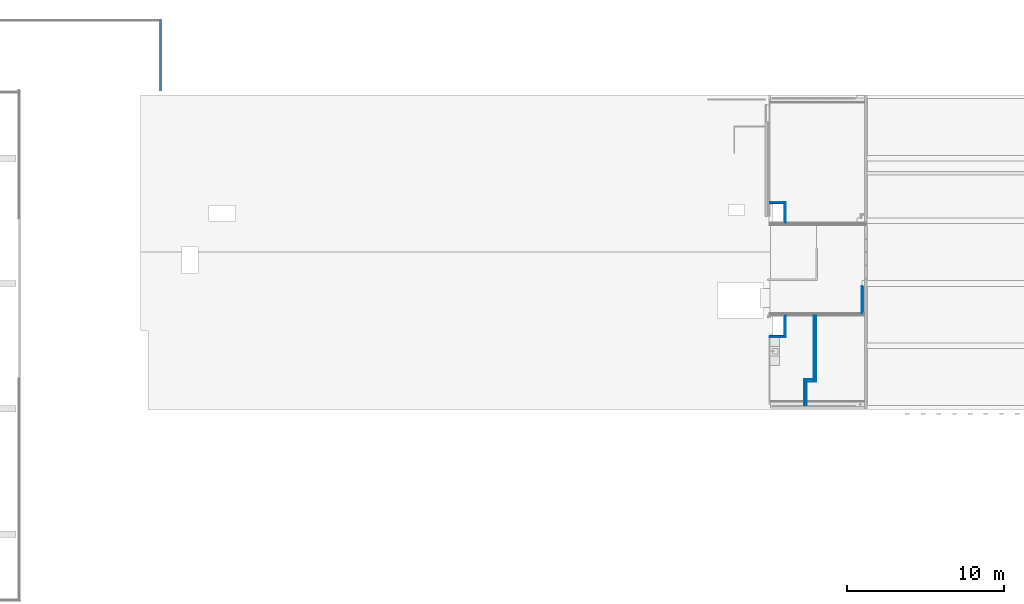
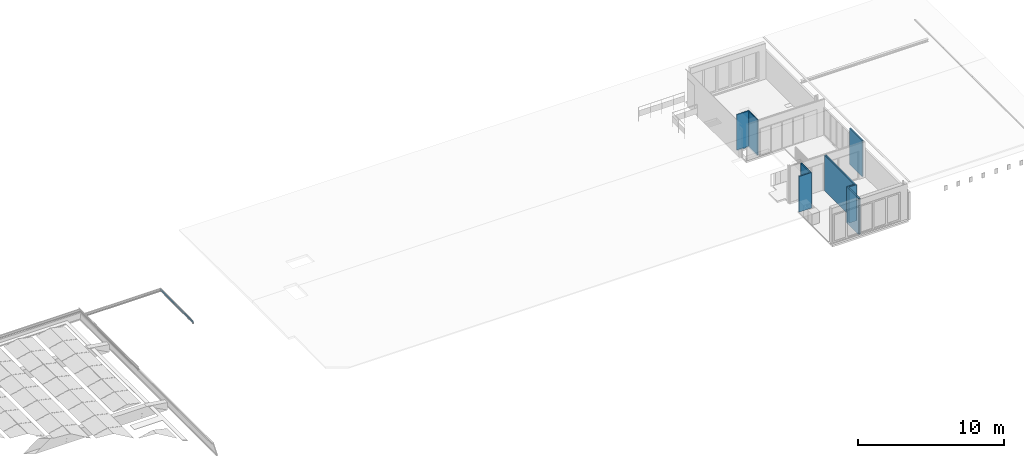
# One storey, part 14 of 25: 35 building element parts, 9 elements without a shape of their own.
"""IFC2X3 building model written with IfcOpenShell, lengths in millimetres."""

from ifc_helpers import new_model, entity, si_unit, converted_unit, derived_unit, money_unit, direction, frame, origin_with_axes, place, context, subcontext, project, spatial, faceted_brep, material, type_object, element, aggregate, save


model = new_model("IFC2X3")

# Units and contexts
model_context = context("Model", 3, precision=0.01, world=origin_with_axes(), true_north=direction((0.0, 1.0)))
body_context = subcontext(model_context, "Body", "Model", "MODEL_VIEW")
ifc_project = project(units=[si_unit("LENGTHUNIT", "METRE", prefix="MILLI"), si_unit("AREAUNIT", "SQUARE_METRE"), si_unit("VOLUMEUNIT", "CUBIC_METRE"), converted_unit("PLANEANGLEUNIT", "DEGREE", entity("IfcPlaneAngleMeasure", 0.0174532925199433), si_unit("PLANEANGLEUNIT", "RADIAN"), dimensions=[0, 0, 0, 0, 0, 0, 0]), money_unit("EUR"), converted_unit("TIMEUNIT", "Year", entity("IfcTimeMeasure", 31557600.0), si_unit("TIMEUNIT", "SECOND"), dimensions=[0, 0, 1, 0, 0, 0, 0]), si_unit("MASSUNIT", "GRAM", prefix="KILO"), si_unit("THERMODYNAMICTEMPERATUREUNIT", "DEGREE_CELSIUS"), si_unit("LUMINOUSINTENSITYUNIT", "LUMEN"), si_unit("ENERGYUNIT", "JOULE", prefix="MEGA"), derived_unit("THERMALCONDUCTANCEUNIT", [(si_unit("POWERUNIT", "WATT"), 1), (si_unit("LENGTHUNIT", "METRE"), -1), (si_unit("THERMODYNAMICTEMPERATUREUNIT", "KELVIN"), -1)]), derived_unit("SPECIFICHEATCAPACITYUNIT", [(si_unit("ENERGYUNIT", "JOULE"), 1), (si_unit("MASSUNIT", "GRAM", prefix="KILO"), -1), (si_unit("THERMODYNAMICTEMPERATUREUNIT", "KELVIN"), -1)]), derived_unit("MASSDENSITYUNIT", [(si_unit("MASSUNIT", "GRAM", prefix="KILO"), 1), (si_unit("VOLUMEUNIT", "CUBIC_METRE"), -1)])], contexts=[model_context])

# Site, building, storey
site_placement = place(None, origin_with_axes())
site = spatial("IfcSite", under=ifc_project, at=site_placement, Name="<site naam>", CompositionType="ELEMENT")
building_placement = place(site_placement, origin_with_axes())
building = spatial("IfcBuilding", under=site, at=building_placement, Name="<Naam gebouw>", CompositionType="ELEMENT")
storey_placement = place(building_placement, frame((0.0, 0.0, 9563.0), z_axis=(0.0, 0.0, 1.0), x_axis=(1.0, 0.0, 0.0)))
storey = spatial("IfcBuildingStorey", under=building, at=storey_placement, Name="03 3e tussenverdieping", CompositionType="ELEMENT", Elevation=9563.0)

# Wall, building element parts
wall_type_1 = type_object("IfcWallType", Name="MS-01 GF 150 ECO DGS/2.100.2.A 150", PredefinedType="NOTDEFINED")
wall_1_placement = place(storey_placement, frame((55000.00000000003, 5935.000000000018, 0.0), z_axis=(0.0, 0.0, 1.0), x_axis=(0.0, -1.0, 0.0)))
wall_1 = element("IfcWall", 1, at=wall_1_placement, inside=storey, type_object=wall_type_1, Name="22_Binnenwand_MS-01")
ifc_material_1 = material(Name="gipsplaat")
building_element_part_1_placement = place(wall_1_placement, origin_with_axes())
building_element_part_1 = element("IfcBuildingElementPart", 2, at=building_element_part_1_placement, material=ifc_material_1, Name="gipsplaat", context=body_context, shape_type="Brep", body=[
    faceted_brep([(0.0, 62.5, 2987.000014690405), (0.0, 75.00000000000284, 2987.000014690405), (0.0, 75.00000000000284, 0.0), (0.0, 62.5, 0.0), (4205.000000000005, 75.00000000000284, 2987.000014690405), (4205.000000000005, 62.5, 2987.000014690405), (4205.000000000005, 75.00000000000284, 0.0), (4205.000000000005, 62.5, 0.0)], [[[0, 1, 2, 3]], [[4, 1, 0, 5]], [[1, 4, 6, 2]], [[6, 7, 3, 2]], [[5, 0, 3, 7]], [[4, 5, 7, 6]]]),
])
building_element_part_2_placement = place(wall_1_placement, origin_with_axes())
building_element_part_2 = element("IfcBuildingElementPart", 3, at=building_element_part_2_placement, material=ifc_material_1, Name="gipsplaat", context=body_context, shape_type="Brep", body=[
    faceted_brep([(0.0, 49.99999999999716, 2987.000014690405), (0.0, 62.5, 2987.000014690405), (0.0, 62.5, 0.0), (0.0, 49.99999999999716, 0.0), (4192.500000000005, 62.5, 2987.000014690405), (4192.500000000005, 49.99999999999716, 2987.000014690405), (4192.500000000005, 62.5, 0.0), (4192.500000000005, 49.99999999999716, 0.0)], [[[0, 1, 2, 3]], [[4, 1, 0, 5]], [[1, 4, 6, 2]], [[6, 7, 3, 2]], [[5, 0, 3, 7]], [[4, 5, 7, 6]]]),
])
ifc_material_2 = material(Name="isolatie_steenwol LSW")
building_element_part_3_placement = place(wall_1_placement, origin_with_axes())
building_element_part_3 = element("IfcBuildingElementPart", 4, at=building_element_part_3_placement, material=ifc_material_2, Name="isolatie_steenwol LSW", context=body_context, shape_type="Brep", body=[
    faceted_brep([(0.0, -49.99999999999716, 2987.000014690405), (0.0, 49.99999999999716, 2987.000014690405), (0.0, 49.99999999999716, 0.0), (0.0, -49.99999999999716, 0.0), (4180.000000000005, 49.99999999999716, 2987.000014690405), (4180.000000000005, -49.99999999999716, 2987.000014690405), (4180.000000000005, 49.99999999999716, 0.0), (4180.000000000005, -49.99999999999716, 0.0)], [[[0, 1, 2, 3]], [[4, 1, 0, 5]], [[1, 4, 6, 2]], [[6, 7, 3, 2]], [[5, 0, 3, 7]], [[4, 5, 7, 6]]]),
])
building_element_part_4_placement = place(wall_1_placement, origin_with_axes())
building_element_part_4 = element("IfcBuildingElementPart", 5, at=building_element_part_4_placement, material=ifc_material_1, Name="gipsplaat", context=body_context, shape_type="Brep", body=[
    faceted_brep([(0.0, -62.5, 2987.000014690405), (0.0, -49.99999999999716, 2987.000014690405), (0.0, -49.99999999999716, 0.0), (0.0, -62.5, 0.0), (4080.000000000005, -49.99999999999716, 2987.000014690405), (4080.000000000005, -62.5, 2987.000014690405), (4080.000000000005, -49.99999999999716, 0.0), (4080.000000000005, -62.5, 0.0)], [[[0, 1, 2, 3]], [[4, 1, 0, 5]], [[1, 4, 6, 2]], [[6, 7, 3, 2]], [[5, 0, 3, 7]], [[4, 5, 7, 6]]]),
])
building_element_part_5_placement = place(wall_1_placement, origin_with_axes())
building_element_part_5 = element("IfcBuildingElementPart", 6, at=building_element_part_5_placement, material=ifc_material_1, Name="gipsplaat", context=body_context, shape_type="Brep", body=[
    faceted_brep([(0.0, -75.00000000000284, 2987.000014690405), (0.0, -62.5, 2987.000014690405), (0.0, -62.5, 0.0), (0.0, -75.00000000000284, 0.0), (4067.500000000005, -62.5, 2987.000014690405), (4067.500000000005, -75.00000000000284, 2987.000014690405), (4067.500000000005, -62.5, 0.0), (4067.500000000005, -75.00000000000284, 0.0)], [[[0, 1, 2, 3]], [[4, 1, 0, 5]], [[1, 4, 6, 2]], [[6, 7, 3, 2]], [[5, 0, 3, 7]], [[4, 5, 7, 6]]]),
])
aggregate(wall_1, [building_element_part_1, building_element_part_2, building_element_part_3, building_element_part_4, building_element_part_5])

wall_type_2 = type_object("IfcWallType", Name="MS-04 GF 138 V/100.3.A 113", PredefinedType="NOTDEFINED")
wall_2_placement = place(storey_placement, frame((52135.00000000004, 4685.000000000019, 0.0), z_axis=(0.0, 0.0, 1.0), x_axis=(1.0, 0.0, 0.0)))
wall_2 = element("IfcWall", 7, at=wall_2_placement, inside=storey, type_object=wall_type_2, Name="22_Binnenwand_MS-04")
building_element_part_6_placement = place(wall_2_placement, origin_with_axes())
building_element_part_6 = element("IfcBuildingElementPart", 8, at=building_element_part_6_placement, material=ifc_material_2, Name="isolatie_steenwol LSW", context=body_context, shape_type="Brep", body=[
    faceted_brep([(0.0, 0.0, 2987.000014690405), (964.9999999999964, 0.0, 2987.000014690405), (964.9999999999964, 0.0, 0.0), (0.0, 0.0, 0.0), (964.9999999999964, -75.00000000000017, 2987.000014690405), (0.0, -75.00000000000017, 2987.000014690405), (964.9999999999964, -75.00000000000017, 0.0), (0.0, -75.00000000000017, 0.0)], [[[0, 1, 2, 3]], [[4, 1, 0, 5]], [[1, 4, 6, 2]], [[3, 2, 6, 7]], [[5, 0, 3, 7]], [[4, 5, 7, 6]]]),
])
building_element_part_7_placement = place(wall_2_placement, origin_with_axes())
building_element_part_7 = element("IfcBuildingElementPart", 9, at=building_element_part_7_placement, material=ifc_material_1, Name="gipsplaat", context=body_context, shape_type="Brep", body=[
    faceted_brep([(0.0, -75.00000000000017, 2987.000014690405), (977.499999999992, -75.00000000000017, 2987.000014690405), (977.499999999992, -75.00000000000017, 0.0), (0.0, -75.00000000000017, 0.0), (977.499999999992, -87.49999999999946, 2987.000014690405), (0.0, -87.49999999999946, 2987.000014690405), (977.499999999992, -87.50000000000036, 0.0), (0.0, -87.50000000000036, 0.0)], [[[0, 1, 2, 3]], [[4, 1, 0, 5]], [[1, 4, 6, 2]], [[3, 2, 6, 7]], [[5, 0, 3, 7]], [[4, 5, 7, 6]]]),
])
building_element_part_8_placement = place(wall_2_placement, origin_with_axes())
building_element_part_8 = element("IfcBuildingElementPart", 10, at=building_element_part_8_placement, material=ifc_material_1, Name="gipsplaat", context=body_context, shape_type="Brep", body=[
    faceted_brep([(0.0, -87.49999999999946, 2987.000014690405), (989.9999999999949, -87.49999999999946, 2987.000014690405), (989.9999999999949, -87.50000000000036, 0.0), (0.0, -87.50000000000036, 0.0), (989.9999999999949, -99.99999999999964, 2987.000014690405), (0.0, -99.99999999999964, 2987.000014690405), (989.9999999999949, -99.99999999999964, 0.0), (0.0, -99.99999999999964, 0.0)], [[[0, 1, 2, 3]], [[4, 1, 0, 5]], [[1, 4, 6, 2]], [[3, 2, 6, 7]], [[5, 0, 3, 7]], [[4, 5, 7, 6]]]),
])
building_element_part_9_placement = place(wall_2_placement, origin_with_axes())
building_element_part_9 = element("IfcBuildingElementPart", 11, at=building_element_part_9_placement, material=ifc_material_1, Name="gipsplaat", context=body_context, shape_type="Brep", body=[
    faceted_brep([(0.0, -99.99999999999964, 2987.000014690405), (1002.499999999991, -99.99999999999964, 2987.000014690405), (1002.499999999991, -99.99999999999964, 0.0), (0.0, -99.99999999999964, 0.0), (1002.499999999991, -112.4999999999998, 2987.000014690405), (0.0, -112.4999999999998, 2987.000014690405), (1002.499999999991, -112.4999999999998, 2640.000000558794), (1002.499999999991, -110.0000179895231, 2640.000000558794), (1002.499999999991, -110.0000179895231, 2600.0), (1002.499999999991, -112.4999999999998, 2600.0), (1002.499999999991, -112.4999999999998, 0.0), (0.0, -112.4999999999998, 0.0), (2.32851086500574, -112.4999999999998, 2599.999999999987), (2.32851086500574, -112.4999999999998, 2640.000000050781), (2.299332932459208, -110.0000179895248, 2640.0), (2.299332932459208, -110.0000179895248, 2600.000000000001)], [[[0, 1, 2, 3]], [[4, 1, 0, 5]], [[1, 4, 6, 7, 8, 9, 10, 2]], [[3, 2, 10, 11]], [[5, 0, 3, 11]], [[4, 5, 11, 10, 9, 12, 13, 6]], [[14, 7, 6, 13]], [[15, 8, 7, 14]], [[12, 9, 8, 15]], [[14, 13, 12, 15]]]),
])
aggregate(wall_2, [building_element_part_6, building_element_part_7, building_element_part_8, building_element_part_9])

wall_3_placement = place(storey_placement, frame((53025.00000000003, 4685.000000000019, 0.0), z_axis=(0.0, 0.0, 1.0), x_axis=(0.0, 1.0, 0.0)))
wall_3 = element("IfcWall", 12, at=wall_3_placement, inside=storey, type_object=wall_type_2, Name="22_Binnenwand_MS-04")
building_element_part_10_placement = place(wall_3_placement, origin_with_axes())
building_element_part_10 = element("IfcBuildingElementPart", 13, at=building_element_part_10_placement, material=ifc_material_2, Name="isolatie_steenwol LSW", context=body_context, shape_type="Brep", body=[
    faceted_brep([(1249.999999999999, 0.0, 2987.000014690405), (1249.999999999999, -75.00000000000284, 2987.000014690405), (1249.999999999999, -75.00000000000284, 0.0), (1249.999999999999, 0.0, 0.0), (0.0, -75.00000000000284, 2987.000014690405), (0.0, 0.0, 2987.000014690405), (0.0, -75.00000000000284, 0.0), (0.0, 0.0, 0.0)], [[[0, 1, 2, 3]], [[4, 1, 0, 5]], [[1, 4, 6, 2]], [[6, 7, 3, 2]], [[5, 0, 3, 7]], [[4, 5, 7, 6]]]),
])
building_element_part_11_placement = place(wall_3_placement, origin_with_axes())
building_element_part_11 = element("IfcBuildingElementPart", 14, at=building_element_part_11_placement, material=ifc_material_1, Name="gipsplaat", context=body_context, shape_type="Brep", body=[
    faceted_brep([(1249.999999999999, -87.49999999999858, 2987.000014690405), (1249.999999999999, -100.0000000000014, 2987.000014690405), (1249.999999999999, -100.0000000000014, 0.0), (1249.999999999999, -87.49999999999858, 0.0), (-87.50000000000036, -100.0000000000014, 2987.000014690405), (-87.50000000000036, -87.49999999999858, 2987.000014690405), (-87.50000000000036, -100.0000000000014, 0.0), (-87.50000000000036, -87.49999999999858, 0.0)], [[[0, 1, 2, 3]], [[4, 1, 0, 5]], [[1, 4, 6, 2]], [[6, 7, 3, 2]], [[5, 0, 3, 7]], [[4, 5, 7, 6]]]),
])
building_element_part_12_placement = place(wall_3_placement, origin_with_axes())
building_element_part_12 = element("IfcBuildingElementPart", 15, at=building_element_part_12_placement, material=ifc_material_1, Name="gipsplaat", context=body_context, shape_type="Brep", body=[
    faceted_brep([(1249.999999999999, -100.0000000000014, 2987.000014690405), (1249.999999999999, -112.4999999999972, 2987.000014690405), (1249.999999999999, -112.4999999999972, 0.0), (1249.999999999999, -100.0000000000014, 0.0), (-99.99999999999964, -112.4999999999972, 2987.000014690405), (-99.99999999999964, -100.0000000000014, 2987.000014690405), (-99.99999999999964, -112.4999999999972, 0.0), (-99.99999999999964, -100.0000000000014, 0.0)], [[[0, 1, 2, 3]], [[4, 1, 0, 5]], [[1, 4, 6, 2]], [[6, 7, 3, 2]], [[5, 0, 3, 7]], [[4, 5, 7, 6]]]),
])
building_element_part_13_placement = place(wall_3_placement, origin_with_axes())
building_element_part_13 = element("IfcBuildingElementPart", 16, at=building_element_part_13_placement, material=ifc_material_1, Name="gipsplaat", context=body_context, shape_type="Brep", body=[
    faceted_brep([(1249.999999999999, -75.00000000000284, 2987.000014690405), (1249.999999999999, -87.49999999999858, 2987.000014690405), (1249.999999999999, -87.49999999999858, 0.0), (1249.999999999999, -75.00000000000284, 0.0), (-75.00000000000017, -87.49999999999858, 2987.000014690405), (-75.00000000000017, -75.00000000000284, 2987.000014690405), (-75.00000000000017, -87.49999999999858, 0.0), (-75.00000000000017, -75.00000000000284, 0.0)], [[[0, 1, 2, 3]], [[4, 1, 0, 5]], [[1, 4, 6, 2]], [[6, 7, 3, 2]], [[5, 0, 3, 7]], [[4, 5, 7, 6]]]),
])
aggregate(wall_3, [building_element_part_10, building_element_part_11, building_element_part_12, building_element_part_13])

wall_4_placement = place(storey_placement, frame((52135.00000000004, 13075.00000000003, -29.99999999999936), z_axis=(0.0, 0.0, 1.0), x_axis=(1.0, 0.0, 0.0)))
wall_4 = element("IfcWall", 17, at=wall_4_placement, inside=storey, type_object=wall_type_2, Name="22_Binnenwand_MS-04")
building_element_part_14_placement = place(wall_4_placement, origin_with_axes())
building_element_part_14 = element("IfcBuildingElementPart", 18, at=building_element_part_14_placement, material=ifc_material_1, Name="gipsplaat", context=body_context, shape_type="Brep", body=[
    faceted_brep([(3.164061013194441e-06, 112.5000000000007, 3017.000014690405), (1002.499997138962, 112.5000000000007, 3017.000014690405), (1002.499997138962, 112.5000000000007, 29.99999999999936), (889.9999999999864, 112.5000000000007, 29.99999999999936), (4.612341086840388e-05, 112.5000000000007, 29.99999999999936), (1002.499997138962, 99.99999999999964, 3017.000014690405), (3.164061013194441e-06, 99.99999999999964, 3017.000014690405), (1002.499997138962, 99.99999999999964, 29.99999999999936), (4.612341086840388e-05, 99.99999999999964, 29.99999999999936)], [[[0, 1, 2, 3, 4]], [[5, 1, 0, 6]], [[1, 5, 7, 2]], [[8, 4, 3, 2, 7]], [[6, 0, 4, 8]], [[5, 6, 8, 7]]]),
])
building_element_part_15_placement = place(wall_4_placement, origin_with_axes())
building_element_part_15 = element("IfcBuildingElementPart", 19, at=building_element_part_15_placement, material=ifc_material_1, Name="gipsplaat", context=body_context, shape_type="Brep", body=[
    faceted_brep([(3.164061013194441e-06, 99.99999999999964, 3017.000014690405), (989.9999999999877, 99.99999999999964, 3017.000014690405), (989.9999999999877, 99.99999999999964, 29.99999999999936), (4.612341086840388e-05, 99.99999999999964, 29.99999999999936), (989.9999999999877, 87.50000000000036, 3017.000014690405), (3.164061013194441e-06, 87.50000000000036, 3017.000014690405), (989.9999999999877, 87.50000000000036, 29.99999999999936), (4.612341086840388e-05, 87.50000000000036, 29.99999999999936)], [[[0, 1, 2, 3]], [[4, 1, 0, 5]], [[1, 4, 6, 2]], [[7, 3, 2, 6]], [[5, 0, 3, 7]], [[4, 5, 7, 6]]]),
])
building_element_part_16_placement = place(wall_4_placement, origin_with_axes())
building_element_part_16 = element("IfcBuildingElementPart", 20, at=building_element_part_16_placement, material=ifc_material_2, Name="isolatie_steenwol LSW", context=body_context, shape_type="Brep", body=[
    faceted_brep([(3.164061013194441e-06, 75.00000000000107, 3017.000014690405), (964.9999999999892, 75.00000000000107, 3017.000014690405), (964.9999999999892, 74.99999999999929, 29.99999999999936), (889.9999999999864, 74.99999999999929, 29.99999999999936), (4.612341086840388e-05, 74.99999999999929, 29.99999999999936), (964.9999999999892, 0.0, 3017.000014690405), (3.164061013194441e-06, -3.835371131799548e-06, 3017.000014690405), (964.9999999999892, 0.0, 29.99999999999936), (4.612341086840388e-05, -5.590924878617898e-05, 29.99999999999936)], [[[0, 1, 2, 3, 4]], [[5, 1, 0, 6]], [[1, 5, 7, 2]], [[8, 4, 3, 2, 7]], [[6, 0, 4, 8]], [[5, 6, 8, 7]]]),
])

wall_5_placement = place(storey_placement, frame((53025.00000000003, 13075.00000000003, 0.0), z_axis=(0.0, 0.0, 1.0), x_axis=(0.0, -1.0, 0.0)))
wall_5 = element("IfcWall", 21, at=wall_5_placement, inside=storey, type_object=wall_type_2, Name="22_Binnenwand_MS-04")
building_element_part_17_placement = place(wall_5_placement, origin_with_axes())
building_element_part_17 = element("IfcBuildingElementPart", 22, at=building_element_part_17_placement, material=ifc_material_1, Name="gipsplaat", context=body_context, shape_type="Brep", body=[
    faceted_brep([(-99.99999999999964, 100.0000000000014, 2987.000014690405), (-99.99999999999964, 112.4999999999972, 2987.000014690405), (-99.99999999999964, 112.4999999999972, 0.0), (-99.99999999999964, 100.0000000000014, 0.0), (1199.999999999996, 112.4999999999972, 2987.000014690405), (1199.999999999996, 100.0000000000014, 2987.000014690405), (1199.999999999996, 112.4999999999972, 0.0), (1199.999999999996, 100.0000000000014, 0.0)], [[[0, 1, 2, 3]], [[4, 1, 0, 5]], [[1, 4, 6, 2]], [[2, 6, 7, 3]], [[5, 0, 3, 7]], [[4, 5, 7, 6]]]),
])
building_element_part_18_placement = place(wall_5_placement, origin_with_axes())
building_element_part_18 = element("IfcBuildingElementPart", 23, at=building_element_part_18_placement, material=ifc_material_1, Name="gipsplaat", context=body_context, shape_type="Brep", body=[
    faceted_brep([(-74.99999999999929, 75.00000000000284, 2987.000014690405), (-74.99999999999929, 87.49999999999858, 2987.000014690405), (-74.99999999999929, 87.49999999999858, 0.0), (-74.99999999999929, 75.00000000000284, 0.0), (1199.999999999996, 87.49999999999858, 2987.000014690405), (1199.999999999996, 75.00000000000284, 2987.000014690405), (1199.999999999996, 87.49999999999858, 0.0), (1199.999999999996, 75.00000000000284, 0.0)], [[[0, 1, 2, 3]], [[4, 1, 0, 5]], [[1, 4, 6, 2]], [[2, 6, 7, 3]], [[5, 0, 3, 7]], [[4, 5, 7, 6]]]),
])
building_element_part_19_placement = place(wall_5_placement, origin_with_axes())
building_element_part_19 = element("IfcBuildingElementPart", 24, at=building_element_part_19_placement, material=ifc_material_1, Name="gipsplaat", context=body_context, shape_type="Brep", body=[
    faceted_brep([(-87.50000000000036, 87.49999999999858, 2987.000014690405), (-87.50000000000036, 100.0000000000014, 2987.000014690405), (-87.50000000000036, 100.0000000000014, 0.0), (-87.50000000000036, 87.49999999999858, 0.0), (1199.999999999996, 100.0000000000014, 2987.000014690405), (1199.999999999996, 87.49999999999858, 2987.000014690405), (1199.999999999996, 100.0000000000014, 0.0), (1199.999999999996, 87.49999999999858, 0.0)], [[[0, 1, 2, 3]], [[4, 1, 0, 5]], [[1, 4, 6, 2]], [[2, 6, 7, 3]], [[5, 0, 3, 7]], [[4, 5, 7, 6]]]),
])

# Building element part
building_element_part_20_placement = place(wall_4_placement, origin_with_axes())
building_element_part_20 = element("IfcBuildingElementPart", 25, at=building_element_part_20_placement, material=ifc_material_1, Name="gipsplaat", context=body_context, shape_type="Brep", body=[
    faceted_brep([(3.164061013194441e-06, 87.50000000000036, 3017.000014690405), (977.499999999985, 87.50000000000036, 3017.000014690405), (977.499999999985, 87.50000000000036, 29.99999999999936), (4.612341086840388e-05, 87.49999999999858, 29.99999999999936), (977.499999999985, 75.00000000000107, 3017.000014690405), (3.164061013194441e-06, 75.00000000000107, 3017.000014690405), (977.499999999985, 74.99999999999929, 29.99999999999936), (4.612341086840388e-05, 74.99999999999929, 29.99999999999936), (889.9999999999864, 74.99999999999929, 29.99999999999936)], [[[0, 1, 2, 3]], [[4, 1, 0, 5]], [[1, 4, 6, 2]], [[7, 3, 2, 6, 8]], [[5, 0, 3, 7]], [[4, 5, 7, 8, 6]]]),
])

aggregate(wall_4, [building_element_part_14, building_element_part_15, building_element_part_16, building_element_part_20])

building_element_part_21_placement = place(wall_5_placement, origin_with_axes())
building_element_part_21 = element("IfcBuildingElementPart", 26, at=building_element_part_21_placement, material=ifc_material_2, Name="isolatie_steenwol LSW", context=body_context, shape_type="Brep", body=[
    faceted_brep([(0.0, 0.0, 2987.000014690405), (0.0, 75.00000000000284, 2987.000014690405), (0.0, 75.00000000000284, 0.0), (0.0, 0.0, 0.0), (1199.999999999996, 75.00000000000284, 2987.000014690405), (1199.999999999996, 0.0, 2987.000014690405), (1199.999999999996, 75.00000000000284, 0.0), (1199.999999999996, 0.0, 0.0)], [[[0, 1, 2, 3]], [[4, 1, 0, 5]], [[1, 4, 6, 2]], [[2, 6, 7, 3]], [[5, 0, 3, 7]], [[4, 5, 7, 6]]]),
])

aggregate(wall_5, [building_element_part_17, building_element_part_18, building_element_part_19, building_element_part_21])

# Beam, building element part
beam_type = type_object("IfcBeamType", Name="Aluminium daktrim 45 x 250", PredefinedType="BEAM")
beam_placement = place(storey_placement, frame((13384.93727836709, 20324.99999758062, -5292.062679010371), z_axis=(0.0, 0.0, 1.0), x_axis=(1.0, 0.0, 0.0)))
beam = element("IfcBeam", 27, at=beam_placement, inside=storey, type_object=beam_type, Name="47_Balk_Aluminium", ObjectType="BEAM")
ifc_material_3 = material(Name="aluminium")
building_element_part_22_placement = place(beam_placement, origin_with_axes())
building_element_part_22 = element("IfcBuildingElementPart", 28, at=building_element_part_22_placement, material=ifc_material_3, Name="aluminium", context=body_context, shape_type="Brep", body=[
    faceted_brep([(-111.1979101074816, 0.0, 237.7678423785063), (-143.0058874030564, 0.0, 241.8720983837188), (-143.0058874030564, 4456.990662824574, 241.8720983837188), (-111.1979101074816, 4488.798640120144, 237.7678423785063), (-141.8058874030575, 0.0, 253.0654661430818), (-143.0058874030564, 0.0, 253.0654661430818), (-111.1979101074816, 0.0, 45.7656366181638), (-114.0058874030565, 0.0, 45.7656366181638), (-114.0058874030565, 0.0, 61.56563661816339), (-115.2058874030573, 0.0, 61.56563661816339), (-115.2058874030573, 0.0, 44.56563661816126), (-110.0058874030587, 0.0, 44.56563661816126), (-110.0058874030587, 0.0, 239.0654661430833), (-141.8058874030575, 0.0, 243.1686919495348), (-143.0058874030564, 4456.990662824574, 253.0654661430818), (-111.1979101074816, 4488.798640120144, 45.7656366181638), (-141.8058874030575, 4458.190662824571, 253.0654661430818), (-141.8058874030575, 4458.190662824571, 243.1686919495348), (-110.0058874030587, 4489.990662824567, 239.0654661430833), (-110.0058874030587, 4489.990662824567, 44.56563661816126), (-115.205887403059, 4484.790662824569, 44.56563661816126), (-115.205887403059, 4484.790662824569, 61.56563661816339), (-114.0058874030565, 4485.99066282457, 61.56563661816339), (-114.0058874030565, 4485.99066282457, 45.7656366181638)], [[[0, 1, 2, 3]], [[4, 5, 1, 0, 6, 7, 8, 9, 10, 11, 12, 13]], [[1, 5, 14, 2]], [[15, 3, 2, 14, 16, 17, 18, 19, 20, 21, 22, 23]], [[6, 0, 3, 15]], [[5, 4, 16, 14]], [[7, 6, 15, 23]], [[8, 7, 23, 22]], [[9, 8, 22, 21]], [[10, 9, 21, 20]], [[11, 10, 20, 19]], [[12, 11, 19, 18]], [[13, 12, 18, 17]], [[4, 13, 17, 16]]]),
])
aggregate(beam, [building_element_part_22])

# Wall, building element parts
wall_6_placement = place(storey_placement, frame((54398.64501679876, 1730.000000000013, 0.0), z_axis=(0.0, 0.0, 1.0), x_axis=(0.0, -1.0, 0.0)))
wall_6 = element("IfcWall", 29, at=wall_6_placement, inside=storey, type_object=wall_type_1, Name="22_Binnenwand_MS-01")
building_element_part_23_placement = place(wall_6_placement, origin_with_axes())
building_element_part_23 = element("IfcBuildingElementPart", 30, at=building_element_part_23_placement, material=ifc_material_1, Name="gipsplaat", context=body_context, shape_type="Brep", body=[
    faceted_brep([(1503.800141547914, 62.5, 3026.999999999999), (1503.800141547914, 75.00000000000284, 3026.999999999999), (-12.49999999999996, 75.00000000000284, 3026.999999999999), (-12.49999999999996, 62.5, 3026.999999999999), (1503.800141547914, 62.5, 0.0), (1503.800141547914, 75.00000000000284, 0.0), (-12.49999999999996, 75.00000000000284, 0.0), (-12.49999999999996, 62.5, 0.0)], [[[0, 1, 2, 3]], [[0, 4, 5, 1]], [[1, 5, 6, 2]], [[3, 2, 6, 7]], [[4, 0, 3, 7]], [[5, 4, 7, 6]]]),
])
building_element_part_24_placement = place(wall_6_placement, origin_with_axes())
building_element_part_24 = element("IfcBuildingElementPart", 31, at=building_element_part_24_placement, material=ifc_material_1, Name="gipsplaat", context=body_context, shape_type="Brep", body=[
    faceted_brep([(1503.800141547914, 49.99999999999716, 3026.999999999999), (1503.800141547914, 62.5, 3026.999999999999), (-24.99999999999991, 62.5, 3026.999999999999), (-24.99999999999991, 49.99999999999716, 3026.999999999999), (1503.800141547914, 49.99999999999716, 0.0), (1503.800141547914, 62.5, 0.0), (-24.99999999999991, 62.5, 0.0), (-24.99999999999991, 49.99999999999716, 0.0)], [[[0, 1, 2, 3]], [[0, 4, 5, 1]], [[1, 5, 6, 2]], [[3, 2, 6, 7]], [[4, 0, 3, 7]], [[5, 4, 7, 6]]]),
])
building_element_part_25_placement = place(wall_6_placement, origin_with_axes())
building_element_part_25 = element("IfcBuildingElementPart", 32, at=building_element_part_25_placement, material=ifc_material_2, Name="isolatie_steenwol LSW", context=body_context, shape_type="Brep", body=[
    faceted_brep([(1503.800141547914, -49.99999999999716, 3026.999999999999), (1503.800141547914, 49.99999999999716, 3026.999999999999), (-125.0, 49.99999999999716, 3026.999999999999), (-125.0, -49.99999999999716, 3026.999999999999), (1503.800141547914, -49.99999999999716, 0.0), (1503.800141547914, 49.99999999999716, 0.0), (-125.0, 49.99999999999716, 0.0), (-125.0, -49.99999999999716, 0.0)], [[[0, 1, 2, 3]], [[0, 4, 5, 1]], [[1, 5, 6, 2]], [[3, 2, 6, 7]], [[4, 0, 3, 7]], [[5, 4, 7, 6]]]),
])
building_element_part_26_placement = place(wall_6_placement, origin_with_axes())
building_element_part_26 = element("IfcBuildingElementPart", 33, at=building_element_part_26_placement, material=ifc_material_1, Name="gipsplaat", context=body_context, shape_type="Brep", body=[
    faceted_brep([(1503.800141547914, -75.00000000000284, 3026.999999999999), (1503.800141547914, -62.5, 3026.999999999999), (-149.9999999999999, -62.5, 3026.999999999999), (-149.9999999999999, -75.00000000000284, 3026.999999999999), (1503.800141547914, -75.00000000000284, 0.0), (1503.800141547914, -62.5, 0.0), (-149.9999999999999, -62.5, 0.0), (-149.9999999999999, -75.00000000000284, 0.0)], [[[0, 1, 2, 3]], [[0, 4, 5, 1]], [[1, 5, 6, 2]], [[3, 2, 6, 7]], [[4, 0, 3, 7]], [[5, 4, 7, 6]]]),
])

# Wall, building element part
wall_7_placement = place(storey_placement, frame((54398.64501679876, 1730.000000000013, 0.0), z_axis=(0.0, 0.0, 1.0), x_axis=(1.0, 0.0, 0.0)))
wall_7 = element("IfcWall", 34, at=wall_7_placement, inside=storey, type_object=wall_type_1, Name="22_Binnenwand_MS-01")
building_element_part_27_placement = place(wall_7_placement, origin_with_axes())
building_element_part_27 = element("IfcBuildingElementPart", 35, at=building_element_part_27_placement, material=ifc_material_2, Name="isolatie_steenwol LSW", context=body_context, shape_type="Brep", body=[
    faceted_brep([(551.3549832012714, 125.0000000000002, 3026.999999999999), (49.99999999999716, 125.0000000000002, 3026.999999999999), (49.99999999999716, 25.00000000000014, 3026.999999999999), (551.3549832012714, 25.00000000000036, 3026.999999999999), (551.3549832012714, 125.0, 0.0), (49.99999999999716, 125.0, 0.0), (49.99999999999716, 24.99999999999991, 0.0), (551.3549832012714, 25.00000000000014, 0.0)], [[[0, 1, 2, 3]], [[4, 5, 1, 0]], [[2, 1, 5, 6]], [[3, 2, 6, 7]], [[3, 7, 4, 0]], [[7, 6, 5, 4]]]),
])

# Building element part
building_element_part_28_placement = place(wall_6_placement, origin_with_axes())
building_element_part_28 = element("IfcBuildingElementPart", 36, at=building_element_part_28_placement, material=ifc_material_1, Name="gipsplaat", context=body_context, shape_type="Brep", body=[
    faceted_brep([(1503.800141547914, -62.5, 3026.999999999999), (1503.800141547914, -49.99999999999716, 3026.999999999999), (-137.4999999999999, -49.99999999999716, 3026.999999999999), (-137.4999999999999, -62.5, 3026.999999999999), (1503.800141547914, -62.5, 0.0), (1503.800141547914, -49.99999999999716, 0.0), (-137.4999999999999, -49.99999999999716, 0.0), (-137.4999999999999, -62.5, 0.0)], [[[0, 1, 2, 3]], [[0, 4, 5, 1]], [[1, 5, 6, 2]], [[3, 2, 6, 7]], [[4, 0, 3, 7]], [[5, 4, 7, 6]]]),
])

aggregate(wall_6, [building_element_part_23, building_element_part_24, building_element_part_25, building_element_part_26, building_element_part_28])

building_element_part_29_placement = place(wall_7_placement, origin_with_axes())
building_element_part_29 = element("IfcBuildingElementPart", 37, at=building_element_part_29_placement, material=ifc_material_1, Name="gipsplaat", context=body_context, shape_type="Brep", body=[
    faceted_brep([(538.8549832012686, 137.5000000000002, 3026.999999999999), (-49.99999999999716, 137.5000000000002, 3026.999999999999), (-49.99999999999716, 125.0000000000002, 3026.999999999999), (538.8549832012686, 125.0000000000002, 3026.999999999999), (538.8549832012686, 137.5000000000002, 0.0), (-49.99999999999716, 137.4999999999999, 0.0), (-49.99999999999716, 125.0, 0.0), (538.8549832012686, 125.0, 0.0)], [[[0, 1, 2, 3]], [[4, 5, 1, 0]], [[2, 1, 5, 6]], [[3, 2, 6, 7]], [[3, 7, 4, 0]], [[7, 6, 5, 4]]]),
])

building_element_part_30_placement = place(wall_7_placement, origin_with_axes())
building_element_part_30 = element("IfcBuildingElementPart", 38, at=building_element_part_30_placement, material=ifc_material_1, Name="gipsplaat", context=body_context, shape_type="Brep", body=[
    faceted_brep([(651.3549832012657, 25.00000000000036, 3026.999999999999), (62.5, 25.00000000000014, 3026.999999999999), (62.5, 12.50000000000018, 3026.999999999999), (651.3549832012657, 12.50000000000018, 3026.999999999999), (651.3549832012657, 25.00000000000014, 0.0), (62.5, 24.99999999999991, 0.0), (62.5, 12.49999999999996, 0.0), (651.3549832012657, 12.50000000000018, 0.0)], [[[0, 1, 2, 3]], [[4, 5, 1, 0]], [[2, 1, 5, 6]], [[3, 2, 6, 7]], [[3, 7, 4, 0]], [[7, 6, 5, 4]]]),
])

building_element_part_31_placement = place(wall_7_placement, origin_with_axes())
building_element_part_31 = element("IfcBuildingElementPart", 39, at=building_element_part_31_placement, material=ifc_material_1, Name="gipsplaat", context=body_context, shape_type="Brep", body=[
    faceted_brep([(526.3549832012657, 150.0000000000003, 3026.999999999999), (-62.5, 150.0000000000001, 3026.999999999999), (-62.5, 137.5000000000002, 3026.999999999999), (526.3549832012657, 137.5000000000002, 3026.999999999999), (526.3549832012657, 150.0000000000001, 0.0), (-62.5, 149.9999999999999, 0.0), (-62.5, 137.4999999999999, 0.0), (526.3549832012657, 137.5000000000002, 0.0)], [[[0, 1, 2, 3]], [[4, 5, 1, 0]], [[2, 1, 5, 6]], [[3, 2, 6, 7]], [[3, 7, 4, 0]], [[7, 6, 5, 4]]]),
])

building_element_part_32_placement = place(wall_7_placement, origin_with_axes())
building_element_part_32 = element("IfcBuildingElementPart", 40, at=building_element_part_32_placement, material=ifc_material_1, Name="gipsplaat", context=body_context, shape_type="Brep", body=[
    faceted_brep([(663.8549832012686, 12.50000000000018, 3026.999999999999), (75.00000000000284, 12.50000000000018, 3026.999999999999), (75.00000000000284, 0.0, 3026.999999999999), (663.8549832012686, 0.0, 3026.999999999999), (663.8549832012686, 12.50000000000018, 0.0), (75.00000000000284, 12.49999999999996, 0.0), (75.00000000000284, 0.0, 0.0), (663.8549832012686, 0.0, 0.0)], [[[0, 1, 2, 3]], [[4, 5, 1, 0]], [[2, 1, 5, 6]], [[3, 2, 6, 7]], [[3, 7, 4, 0]], [[7, 6, 5, 4]]]),
])

aggregate(wall_7, [building_element_part_27, building_element_part_29, building_element_part_30, building_element_part_31, building_element_part_32])

# Wall, building element parts
wall_type_3 = type_object("IfcWallType", Name="MS-03 GF 100 HTT DGS V/100.2 100", PredefinedType="NOTDEFINED")
wall_8_placement = place(storey_placement, frame((58000.00000000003, 7825.000000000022, 0.0), z_axis=(0.0, 0.0, 1.0), x_axis=(0.0, -1.0, 0.0)))
wall_8 = element("IfcWall", 41, at=wall_8_placement, inside=storey, type_object=wall_type_3, Name="22_Binnenwand_MS-03")
building_element_part_33_placement = place(wall_8_placement, origin_with_axes())
building_element_part_33 = element("IfcBuildingElementPart", 42, at=building_element_part_33_placement, material=ifc_material_2, Name="isolatie_steenwol LSW", context=body_context, shape_type="Brep", body=[
    faceted_brep([(1739.999979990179, 100.0000000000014, 0.0), (1739.999979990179, 24.99999999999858, 0.0), (0.0, 24.99999999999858, 0.0), (0.0, 100.0000000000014, 0.0), (1739.999979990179, 100.0000000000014, 3026.999999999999), (1739.999979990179, 24.99999999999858, 3026.999999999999), (0.0, 24.99999999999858, 3026.999999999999), (0.0, 100.0000000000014, 3026.999999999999)], [[[0, 1, 2, 3]], [[0, 4, 5, 1]], [[1, 5, 6, 2]], [[3, 2, 6, 7]], [[4, 0, 3, 7]], [[5, 4, 7, 6]]]),
])
building_element_part_34_placement = place(wall_8_placement, origin_with_axes())
building_element_part_34 = element("IfcBuildingElementPart", 43, at=building_element_part_34_placement, material=ifc_material_1, Name="gipsplaat", context=body_context, shape_type="Brep", body=[
    faceted_brep([(1739.999979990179, 24.99999999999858, 0.0), (1739.999979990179, 12.50000000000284, 0.0), (0.0, 12.50000000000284, 0.0), (0.0, 24.99999999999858, 0.0), (1739.999979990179, 24.99999999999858, 3026.999999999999), (1739.999979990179, 12.50000000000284, 3026.999999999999), (0.0, 12.50000000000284, 3026.999999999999), (0.0, 24.99999999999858, 3026.999999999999)], [[[0, 1, 2, 3]], [[0, 4, 5, 1]], [[1, 5, 6, 2]], [[3, 2, 6, 7]], [[4, 0, 3, 7]], [[5, 4, 7, 6]]]),
])
building_element_part_35_placement = place(wall_8_placement, origin_with_axes())
building_element_part_35 = element("IfcBuildingElementPart", 44, at=building_element_part_35_placement, material=ifc_material_1, Name="gipsplaat", context=body_context, shape_type="Brep", body=[
    faceted_brep([(1739.999979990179, 12.50000000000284, 0.0), (1739.999979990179, 0.0, 0.0), (0.0, 0.0, 0.0), (0.0, 12.50000000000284, 0.0), (1739.999979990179, 12.50000000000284, 3026.999999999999), (1739.999979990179, 0.0, 3026.999999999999), (0.0, 0.0, 3026.999999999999), (0.0, 12.50000000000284, 3026.999999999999)], [[[0, 1, 2, 3]], [[0, 4, 5, 1]], [[1, 5, 6, 2]], [[3, 2, 6, 7]], [[4, 0, 3, 7]], [[5, 4, 7, 6]]]),
])
aggregate(wall_8, [building_element_part_33, building_element_part_34, building_element_part_35])

save(model, "model.ifc")
